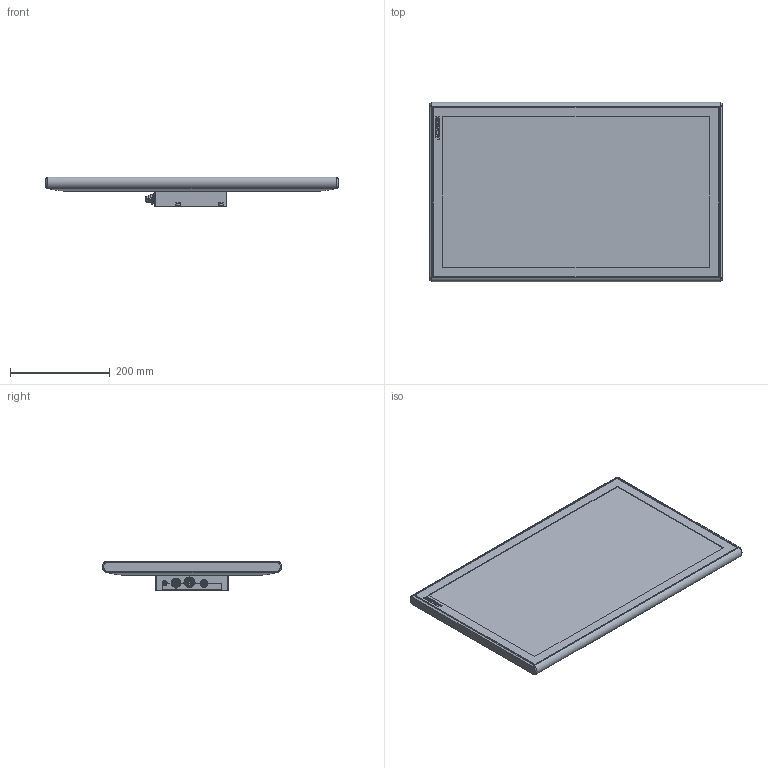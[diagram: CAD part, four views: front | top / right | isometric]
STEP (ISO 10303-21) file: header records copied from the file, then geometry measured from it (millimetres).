
FILE_DESCRIPTION(/* description */ (''),/* implementation_level */ '2;1');
FILE_NAME(/* name */ 'X:\0-inventor\0-3d-Teile\PC-Compo\solids\CP3xxx\0-Ausgabe\CP3924-M575.stp',/* time_stamp */ '2016-10-11T13:38:49+02:00',/* author */ ('christiankreuzer'),/* organization */ ('Design-AG'),/* preprocessor_version */ 'ST-DEVELOPER v16.5',/* originating_system */ 'Autodesk Inventor 2017',/* authorisation */ '');
FILE_SCHEMA (('AUTOMOTIVE_DESIGN { 1 0 10303 214 3 1 1 }'));
Length unit declared in the file: millimetre
Products named in the file (1): CP3924-M575-Step
Bounding box: 585 x 359.33 x 60 mm (x, y, z)
Volume: 6040737.1 mm3; surface area: 915205.3 mm2
Topology: 12 solids, 13 shells, 664 faces, 1608 edges, 1008 vertices
Faces by surface type: cylinder 265, plane 254, bspline 62, cone 39, sphere 31, torus 13
Full cylindrical faces by diameter (mm): 0.5 x8, 1 x23, 4 x2, 4.3 x1, 4.917 x4, 5.9 x1, 6 x1, 6.6 x1, 7.9 x1, 8 x1, 8.5 x4, 8.8 x4, 9 x3, 11 x2, 12 x1, 16.01 x1, 20 x1
Entity records: 21041 total; most frequent: CARTESIAN_POINT 5878, DIRECTION 2975, ORIENTED_EDGE 2856, EDGE_CURVE 1428, AXIS2_PLACEMENT_3D 1126, VERTEX_POINT 941, EDGE_LOOP 825, LINE 723
